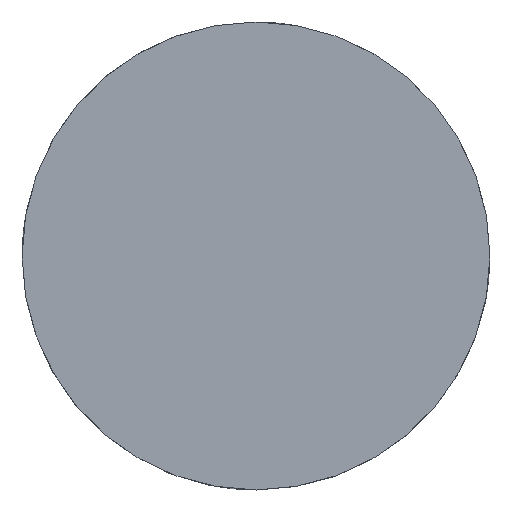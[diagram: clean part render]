
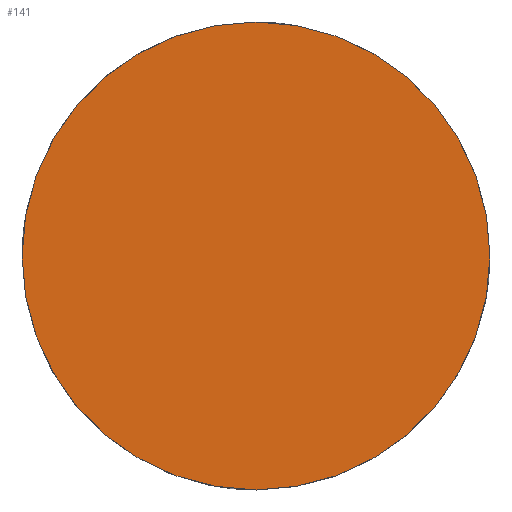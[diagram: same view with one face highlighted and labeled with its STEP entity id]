
A CAD part, top view. The second image highlights one B-rep face of the part: STEP entity #141.
In plain terms, the highlighted planar face has unit normal (0, 0, 1).
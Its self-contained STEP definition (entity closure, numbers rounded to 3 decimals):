
#7 = DIRECTION ( 'NONE',  ( 0., 0., 1. ) ) ;
#9 = VERTEX_POINT ( 'NONE', #168 ) ;
#10 = CARTESIAN_POINT ( 'NONE',  ( 0., 0., 2.11 ) ) ;
#24 = DIRECTION ( 'NONE',  ( 1., 0., 0. ) ) ;
#26 = EDGE_CURVE ( 'NONE', #9, #92, #195, .T. ) ;
#41 = CIRCLE ( 'NONE', #169, 4. ) ;
#65 = CARTESIAN_POINT ( 'NONE',  ( 0., 0., 2.11 ) ) ;
#82 = DIRECTION ( 'NONE',  ( 1., 0., 0. ) ) ;
#92 = VERTEX_POINT ( 'NONE', #206 ) ;
#99 = CARTESIAN_POINT ( 'NONE',  ( 0., 0., 2.11 ) ) ;
#101 = AXIS2_PLACEMENT_3D ( 'NONE', #10, #7, #24 ) ;
#107 = ORIENTED_EDGE ( 'NONE', *, *, #179, .T. ) ;
#111 = DIRECTION ( 'NONE',  ( 0., 0., 1. ) ) ;
#117 = AXIS2_PLACEMENT_3D ( 'NONE', #99, #111, #82 ) ;
#141 = ADVANCED_FACE ( 'NONE', ( #211 ), #164, .T. ) ;
#164 = PLANE ( 'NONE',  #101 ) ;
#165 = DIRECTION ( 'NONE',  ( 0., 0., 1. ) ) ;
#168 = CARTESIAN_POINT ( 'NONE',  ( 4., 0., 2.11 ) ) ;
#169 = AXIS2_PLACEMENT_3D ( 'NONE', #65, #165, #183 ) ;
#170 = ORIENTED_EDGE ( 'NONE', *, *, #26, .T. ) ;
#179 = EDGE_CURVE ( 'NONE', #92, #9, #41, .T. ) ;
#183 = DIRECTION ( 'NONE',  ( 1., 0., 0. ) ) ;
#185 = EDGE_LOOP ( 'NONE', ( #107, #170 ) ) ;
#195 = CIRCLE ( 'NONE', #117, 4. ) ;
#206 = CARTESIAN_POINT ( 'NONE',  ( -4., 0., 2.11 ) ) ;
#211 = FACE_OUTER_BOUND ( 'NONE', #185, .T. ) ;
